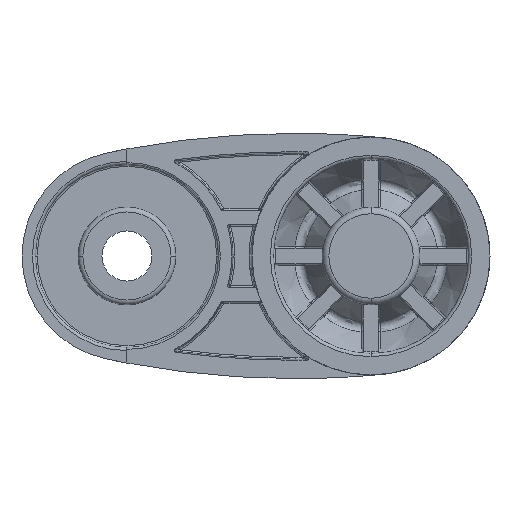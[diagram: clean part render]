
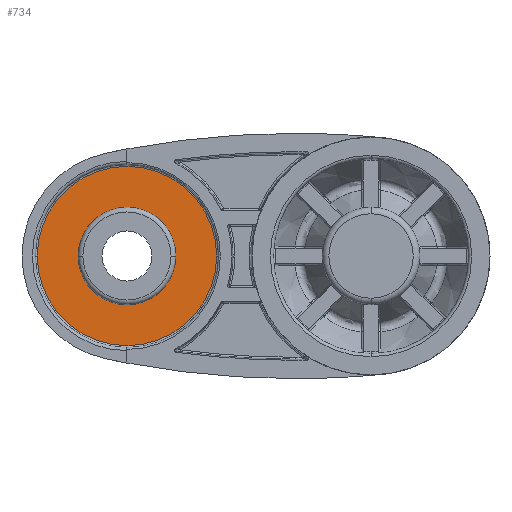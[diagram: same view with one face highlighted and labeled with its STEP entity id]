
A CAD part, front view. The second image highlights one B-rep face of the part: STEP entity #734.
In plain terms, the highlighted planar face has unit normal (0, -1, 0).
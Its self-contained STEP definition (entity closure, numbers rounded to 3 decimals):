
#734=ADVANCED_FACE('NONE',(#1579,#1580),#1581,.T.);
#1579=FACE_OUTER_BOUND('',#3719,.T.);
#1580=FACE_BOUND('',#3720,.T.);
#1581=PLANE('',#3721);
#3719=EDGE_LOOP('',(#7616,#7617));
#3720=EDGE_LOOP('',(#7618,#7619));
#3721=AXIS2_PLACEMENT_3D('',#7620,#7621,#7622);
#7616=ORIENTED_EDGE('',*,*,#9173,.T.);
#7617=ORIENTED_EDGE('',*,*,#8496,.T.);
#7618=ORIENTED_EDGE('',*,*,#8551,.T.);
#7619=ORIENTED_EDGE('',*,*,#9161,.T.);
#7620=CARTESIAN_POINT('',(-32.5,4.0,0.));
#7621=DIRECTION('',(0.,-1.0,0.0));
#7622=DIRECTION('',(0.0,0.0,-1.0));
#8496=EDGE_CURVE('NONE',#9637,#9638,#9639,.T.);
#8551=EDGE_CURVE('NONE',#9730,#9728,#9731,.T.);
#9161=EDGE_CURVE('NONE',#9728,#9730,#10622,.T.);
#9173=EDGE_CURVE('NONE',#9638,#9637,#10636,.T.);
#9637=VERTEX_POINT('NONE',#11255);
#9638=VERTEX_POINT('NONE',#11256);
#9639=CIRCLE('',#11257,14.7);
#9728=VERTEX_POINT('NONE',#11445);
#9730=VERTEX_POINT('NONE',#11448);
#9731=CIRCLE('',#11449,7.5);
#10622=CIRCLE('',#13972,7.5);
#10636=CIRCLE('',#13992,14.7);
#11255=CARTESIAN_POINT('',(-54.7,4.0,0.));
#11256=CARTESIAN_POINT('',(-25.3,4.,0.0));
#11257=AXIS2_PLACEMENT_3D('',#15011,#15012,#15013);
#11445=CARTESIAN_POINT('',(-32.5,4.0,0.));
#11448=CARTESIAN_POINT('',(-47.5,4.0,0.0));
#11449=AXIS2_PLACEMENT_3D('',#15087,#15088,#15089);
#13972=AXIS2_PLACEMENT_3D('',#15663,#15664,#15665);
#13992=AXIS2_PLACEMENT_3D('',#15679,#15680,#15681);
#15011=CARTESIAN_POINT('',(-40.0,4.0,0.0));
#15012=DIRECTION('',(0.,-1.0,0.0));
#15013=DIRECTION('',(1.0,0.,0.0));
#15087=CARTESIAN_POINT('',(-40.0,4.0,0.0));
#15088=DIRECTION('',(0.,1.0,0.0));
#15089=DIRECTION('',(-1.0,0.,0.0));
#15663=CARTESIAN_POINT('',(-40.0,4.0,0.0));
#15664=DIRECTION('',(0.,1.0,0.0));
#15665=DIRECTION('',(-1.0,0.,0.0));
#15679=CARTESIAN_POINT('',(-40.0,4.0,0.0));
#15680=DIRECTION('',(0.,-1.0,0.0));
#15681=DIRECTION('',(1.0,0.,0.0));
